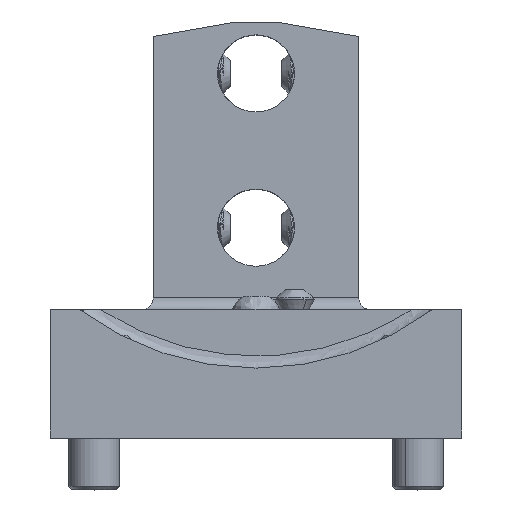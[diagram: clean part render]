
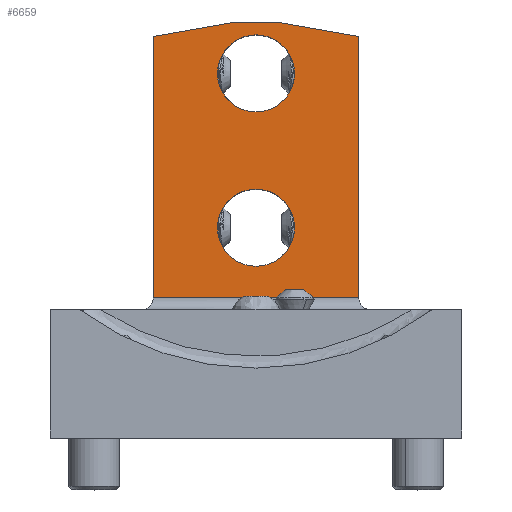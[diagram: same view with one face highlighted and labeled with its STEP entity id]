
A CAD part, top view. The second image highlights one B-rep face of the part: STEP entity #6659.
In plain terms, the highlighted planar face has unit normal (0, 0, 1).
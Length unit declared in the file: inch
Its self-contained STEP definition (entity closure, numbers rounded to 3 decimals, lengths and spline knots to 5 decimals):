
#104 = CIRCLE ( 'NONE', #11489, 0.375 ) ;
#190 = AXIS2_PLACEMENT_3D ( 'NONE', #6532, #4748, #4608 ) ;
#387 = DIRECTION ( 'NONE',  ( 0., 0., -1. ) ) ;
#478 = FACE_OUTER_BOUND ( 'NONE', #11816, .T. ) ;
#700 = VERTEX_POINT ( 'NONE', #7464 ) ;
#840 = CARTESIAN_POINT ( 'NONE',  ( 0., 0., 2. ) ) ;
#1102 = CARTESIAN_POINT ( 'NONE',  ( 1., -2.18, 2. ) ) ;
#1192 = LINE ( 'NONE', #10670, #7240 ) ;
#1372 = FACE_BOUND ( 'NONE', #10875, .T. ) ;
#1379 = LINE ( 'NONE', #12903, #12073 ) ;
#1541 = CARTESIAN_POINT ( 'NONE',  ( -1., 0.35894, 2. ) ) ;
#1546 = CARTESIAN_POINT ( 'NONE',  ( 0., 0., 2. ) ) ;
#1734 = CARTESIAN_POINT ( 'NONE',  ( -1., -2.18, 2. ) ) ;
#1840 = EDGE_CURVE ( 'NONE', #700, #9407, #5875, .T. ) ;
#2071 = ORIENTED_EDGE ( 'NONE', *, *, #6637, .T. ) ;
#2138 = VERTEX_POINT ( 'NONE', #12586 ) ;
#2180 = ORIENTED_EDGE ( 'NONE', *, *, #12129, .F. ) ;
#2196 = CIRCLE ( 'NONE', #6793, 0.375 ) ;
#2251 = VERTEX_POINT ( 'NONE', #13053 ) ;
#2615 = PLANE ( 'NONE',  #190 ) ;
#2860 = EDGE_CURVE ( 'NONE', #6731, #2251, #8835, .T. ) ;
#3104 = VERTEX_POINT ( 'NONE', #5467 ) ;
#3257 = CARTESIAN_POINT ( 'NONE',  ( -0.375, 0., 2. ) ) ;
#3510 = VERTEX_POINT ( 'NONE', #3981 ) ;
#3981 = CARTESIAN_POINT ( 'NONE',  ( 0.2, 0.5, 2. ) ) ;
#4148 = ORIENTED_EDGE ( 'NONE', *, *, #13429, .T. ) ;
#4364 = VERTEX_POINT ( 'NONE', #1734 ) ;
#4564 = AXIS2_PLACEMENT_3D ( 'NONE', #1546, #6700, #6835 ) ;
#4608 = DIRECTION ( 'NONE',  ( 1., 0., 0. ) ) ;
#4637 = ORIENTED_EDGE ( 'NONE', *, *, #12190, .F. ) ;
#4677 = CARTESIAN_POINT ( 'NONE',  ( -0.2, 0.5, 2. ) ) ;
#4748 = DIRECTION ( 'NONE',  ( 0., 0., 1. ) ) ;
#5467 = CARTESIAN_POINT ( 'NONE',  ( 0.375, -1.5, 2. ) ) ;
#5652 = EDGE_CURVE ( 'NONE', #3104, #13305, #12330, .T. ) ;
#5875 = CIRCLE ( 'NONE', #4564, 0.375 ) ;
#5897 = CARTESIAN_POINT ( 'NONE',  ( -0.375, -1.5, 2. ) ) ;
#6338 = DIRECTION ( 'NONE',  ( -1., 0., 0. ) ) ;
#6344 = DIRECTION ( 'NONE',  ( 0.985, -0.174, 0. ) ) ;
#6433 = AXIS2_PLACEMENT_3D ( 'NONE', #6773, #387, #8770 ) ;
#6458 = DIRECTION ( 'NONE',  ( 1., 0., 0. ) ) ;
#6532 = CARTESIAN_POINT ( 'NONE',  ( 0., 0., 2. ) ) ;
#6630 = ORIENTED_EDGE ( 'NONE', *, *, #2860, .T. ) ;
#6637 = EDGE_CURVE ( 'NONE', #4364, #2138, #8510, .T. ) ;
#6659 = ADVANCED_FACE ( 'NONE', ( #478, #9813, #1372 ), #2615, .T. ) ;
#6700 = DIRECTION ( 'NONE',  ( 0., 0., -1. ) ) ;
#6731 = VERTEX_POINT ( 'NONE', #4677 ) ;
#6773 = CARTESIAN_POINT ( 'NONE',  ( 0., -1.5, 2. ) ) ;
#6793 = AXIS2_PLACEMENT_3D ( 'NONE', #7111, #11451, #12539 ) ;
#6818 = ORIENTED_EDGE ( 'NONE', *, *, #5652, .T. ) ;
#6835 = DIRECTION ( 'NONE',  ( -1., 0., 0. ) ) ;
#7111 = CARTESIAN_POINT ( 'NONE',  ( 0., -1.5, 2. ) ) ;
#7240 = VECTOR ( 'NONE', #8806, 39.37008 ) ;
#7361 = ORIENTED_EDGE ( 'NONE', *, *, #10672, .T. ) ;
#7464 = CARTESIAN_POINT ( 'NONE',  ( 0.375, 0., 2. ) ) ;
#7631 = VECTOR ( 'NONE', #6458, 39.37008 ) ;
#7944 = ORIENTED_EDGE ( 'NONE', *, *, #11939, .T. ) ;
#8510 = LINE ( 'NONE', #1102, #7631 ) ;
#8592 = ORIENTED_EDGE ( 'NONE', *, *, #12938, .T. ) ;
#8770 = DIRECTION ( 'NONE',  ( -1., 0., 0. ) ) ;
#8806 = DIRECTION ( 'NONE',  ( 0., -1., 0. ) ) ;
#8835 = LINE ( 'NONE', #10896, #11673 ) ;
#9146 = DIRECTION ( 'NONE',  ( 0., 0., -1. ) ) ;
#9407 = VERTEX_POINT ( 'NONE', #3257 ) ;
#9513 = VECTOR ( 'NONE', #13138, 39.37008 ) ;
#9813 = FACE_BOUND ( 'NONE', #11412, .T. ) ;
#9857 = DIRECTION ( 'NONE',  ( -0.985, -0.174, 0. ) ) ;
#10085 = VECTOR ( 'NONE', #6344, 39.37008 ) ;
#10670 = CARTESIAN_POINT ( 'NONE',  ( 1., 0.35894, 2. ) ) ;
#10672 = EDGE_CURVE ( 'NONE', #9407, #700, #104, .T. ) ;
#10875 = EDGE_LOOP ( 'NONE', ( #7361, #13034 ) ) ;
#10896 = CARTESIAN_POINT ( 'NONE',  ( -0.2, 0.5, 2. ) ) ;
#11412 = EDGE_LOOP ( 'NONE', ( #4148, #6818 ) ) ;
#11451 = DIRECTION ( 'NONE',  ( 0., 0., -1. ) ) ;
#11489 = AXIS2_PLACEMENT_3D ( 'NONE', #840, #9146, #6338 ) ;
#11673 = VECTOR ( 'NONE', #9857, 39.37008 ) ;
#11816 = EDGE_LOOP ( 'NONE', ( #8592, #6630, #7944, #2071, #4637, #2180 ) ) ;
#11939 = EDGE_CURVE ( 'NONE', #2251, #4364, #13066, .T. ) ;
#11947 = DIRECTION ( 'NONE',  ( -1., 0., 0. ) ) ;
#12073 = VECTOR ( 'NONE', #11947, 39.37008 ) ;
#12129 = EDGE_CURVE ( 'NONE', #3510, #12664, #13534, .T. ) ;
#12190 = EDGE_CURVE ( 'NONE', #12664, #2138, #1192, .T. ) ;
#12330 = CIRCLE ( 'NONE', #6433, 0.375 ) ;
#12539 = DIRECTION ( 'NONE',  ( -1., 0., 0. ) ) ;
#12586 = CARTESIAN_POINT ( 'NONE',  ( 1., -2.18, 2. ) ) ;
#12664 = VERTEX_POINT ( 'NONE', #12940 ) ;
#12903 = CARTESIAN_POINT ( 'NONE',  ( 0.2, 0.5, 2. ) ) ;
#12938 = EDGE_CURVE ( 'NONE', #3510, #6731, #1379, .T. ) ;
#12940 = CARTESIAN_POINT ( 'NONE',  ( 1., 0.35894, 2. ) ) ;
#13034 = ORIENTED_EDGE ( 'NONE', *, *, #1840, .T. ) ;
#13053 = CARTESIAN_POINT ( 'NONE',  ( -1., 0.35894, 2. ) ) ;
#13066 = LINE ( 'NONE', #1541, #9513 ) ;
#13138 = DIRECTION ( 'NONE',  ( 0., -1., 0. ) ) ;
#13305 = VERTEX_POINT ( 'NONE', #5897 ) ;
#13396 = CARTESIAN_POINT ( 'NONE',  ( 0.2, 0.5, 2. ) ) ;
#13429 = EDGE_CURVE ( 'NONE', #13305, #3104, #2196, .T. ) ;
#13534 = LINE ( 'NONE', #13396, #10085 ) ;
